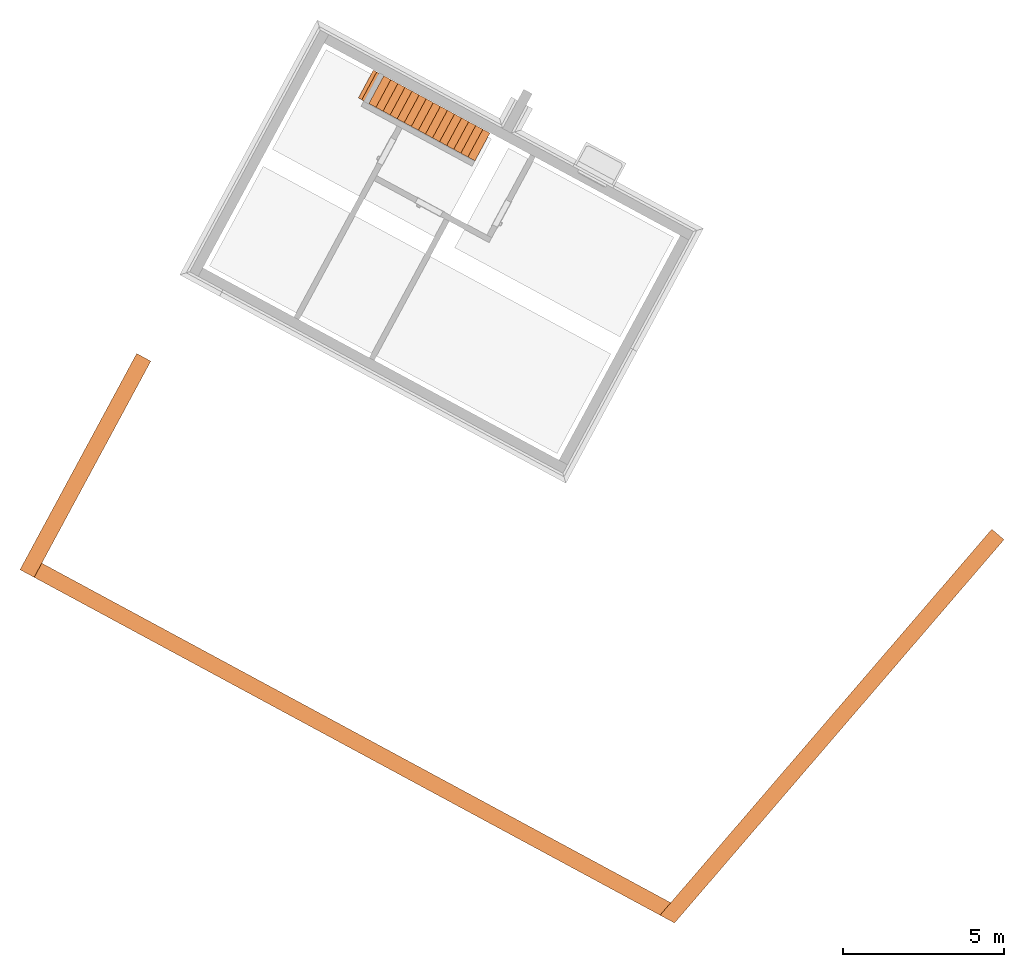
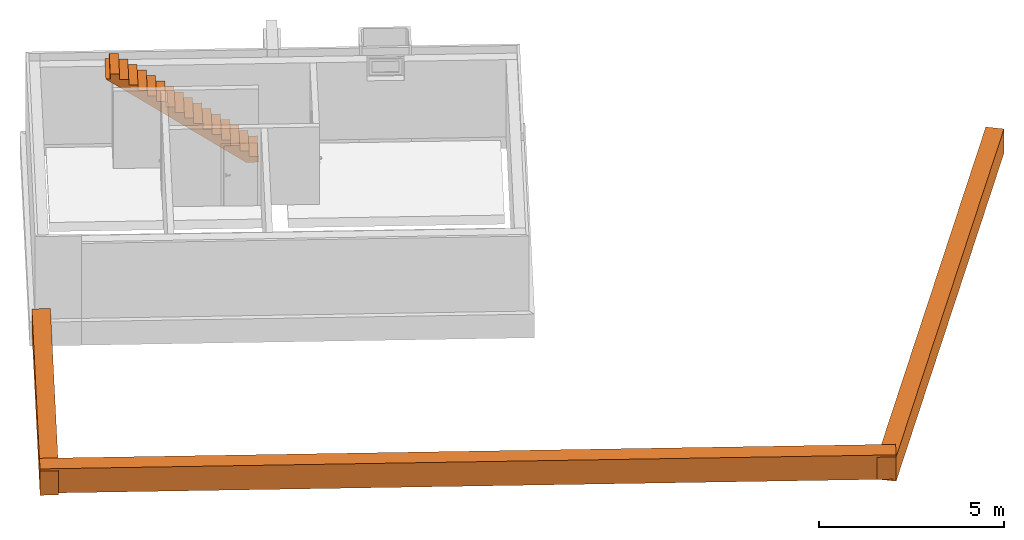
# One storey, part 7 of 7: 4 proxies.
"""IFC2X3 building model written with IfcOpenShell, lengths in metres."""

import ifcopenshell
import ifcopenshell.guid

model = None  # the IFC model being written
_history = None  # IfcOwnerHistory: only IFC2X3 demands one
_inside = {}  # id of a spatial element -> (the spatial element, [elements in it])
_under = {}  # id of a project, library or spatial element -> (it, [spatial elements below it])
_declared = {}  # id of a project -> (the project, [libraries it declares])
_typed = {}  # id of a type object -> (the type object, [elements of that type])
_made_of = {}  # id of a material, layer set ... -> (it, [elements and type objects made of it])


def new_model(schema):
    """Start an empty IFC model of exactly this schema.

    Asked for "IFC4X3", IfcOpenShell would pick the latest addendum, in which some entities
    have other attributes; the version numbers below select the first issue.
    IFC2X3 requires an IfcOwnerHistory on every rooted entity: one is made here for all.
    """
    global model, _history
    if schema == "IFC4X3":
        model = ifcopenshell.file(schema_version=(4, 3, 0, 0))
    else:
        model = ifcopenshell.file(schema=schema)
    _inside.clear()
    _under.clear()
    _declared.clear()
    _typed.clear()
    _made_of.clear()
    _history = None
    if model.schema == "IFC2X3":
        org = make("IfcOrganization", Name="unknown")
        user = make(
            "IfcPersonAndOrganization",
            ThePerson=make("IfcPerson", FamilyName="unknown"),
            TheOrganization=org,
        )
        app = make(
            "IfcApplication",
            ApplicationDeveloper=org,
            Version="unknown",
            ApplicationFullName="unknown",
            ApplicationIdentifier="unknown",
        )
        _history = make(
            "IfcOwnerHistory",
            OwningUser=user,
            OwningApplication=app,
            ChangeAction="ADDED",
            CreationDate=0,
        )
    return model


def make(cls, **values):
    """One entity of the class cls with the attributes given. An attribute that is None is left unset."""
    return model.create_entity(
        cls, **{name: value for name, value in values.items() if value is not None}
    )


def entity(cls, *values):
    """Any entity or typed value of the class cls, its attributes in the order of the schema. None: left unset."""
    e = model.create_entity(cls)
    for i, value in enumerate(values):
        if value is not None:
            e[i] = value
    return e


def rooted(cls, **values):
    """An entity with a GlobalId (a new one), such as an element, a storey or a relation."""
    return make(cls, GlobalId=ifcopenshell.guid.new(), OwnerHistory=_history, **values)


def si_unit(unit_type, name, prefix=None):
    """IfcSIUnit, for example si_unit("LENGTHUNIT", "METRE", prefix="MILLI")."""
    return make("IfcSIUnit", UnitType=unit_type, Prefix=prefix, Name=name)


def converted_unit(unit_type, name, factor, base, dimensions=None, offset=None):
    """IfcConversionBasedUnit, such as the inch: factor (a typed value) times the base unit."""
    return make(
        "IfcConversionBasedUnit"
        if offset is None
        else "IfcConversionBasedUnitWithOffset",
        ConversionOffset=offset,
        Dimensions=None
        if dimensions is None
        else entity("IfcDimensionalExponents", *dimensions),
        UnitType=unit_type,
        Name=name,
        ConversionFactor=make(
            "IfcMeasureWithUnit", ValueComponent=factor, UnitComponent=base
        ),
    )


def derived_unit(unit_type, elements):
    """IfcDerivedUnit: a product of units, each with its exponent."""
    return make(
        "IfcDerivedUnit",
        Elements=[
            make("IfcDerivedUnitElement", Unit=unit, Exponent=power)
            for unit, power in elements
        ],
        UnitType=unit_type,
    )


def money_unit(currency):
    """IfcMonetaryUnit."""
    return make("IfcMonetaryUnit", Currency=currency)


def assignment(units):
    """IfcUnitAssignment: the units of a project."""
    return None if units is None else make("IfcUnitAssignment", Units=units)


def point(xyz):
    """IfcCartesianPoint."""
    return None if xyz is None else make("IfcCartesianPoint", Coordinates=xyz)


def direction(xyz):
    """IfcDirection."""
    return None if xyz is None else make("IfcDirection", DirectionRatios=xyz)


def frame(location, z_axis=None, x_axis=None):
    """IfcAxis2Placement3D, a coordinate frame: its origin and axes. An axis left out is left unset."""
    return make(
        "IfcAxis2Placement3D",
        Location=point(location),
        Axis=direction(z_axis),
        RefDirection=direction(x_axis),
    )


def origin_with_axes():
    """The frame at (0, 0, 0) with the z axis (0, 0, 1) and the x axis (1, 0, 0) written out."""
    return frame((0.0, 0.0, 0.0), z_axis=(0.0, 0.0, 1.0), x_axis=(1.0, 0.0, 0.0))


def place(relative_to, where):
    """IfcLocalPlacement: puts the frame where relative to a parent placement (None: the world)."""
    return make(
        "IfcLocalPlacement", PlacementRelTo=relative_to, RelativePlacement=where
    )


def context(
    kind, dimensions, precision=None, world=None, true_north=None, identifier=None
):
    """IfcGeometricRepresentationContext, for example the 3D "Model" context."""
    return make(
        "IfcGeometricRepresentationContext",
        ContextIdentifier=identifier,
        ContextType=kind,
        CoordinateSpaceDimension=dimensions,
        Precision=precision,
        WorldCoordinateSystem=world,
        TrueNorth=true_north,
    )


def subcontext(parent, identifier, kind, view, scale=None):
    """IfcGeometricRepresentationSubContext, for example "Body" below "Model"."""
    return make(
        "IfcGeometricRepresentationSubContext",
        ContextIdentifier=identifier,
        ContextType=kind,
        ParentContext=parent,
        TargetScale=scale,
        TargetView=view,
    )


def project(units=None, contexts=None):
    """IfcProject with its units and contexts."""
    return rooted(
        "IfcProject",
        Name="project",
        RepresentationContexts=contexts,
        UnitsInContext=assignment(units),
    )


def spatial(cls, under=None, at=None, **own):
    """A site, building, storey or space (cls), placed at a placement, below another one or the project."""
    s = rooted(cls, ObjectPlacement=at, **own)
    if under is not None:
        _under.setdefault(under.id(), (under, []))[1].append(s)
    return s


def faces_of(points, faces, orient=None, outer=None):
    """IfcFace entities. A face is a list of loops; a loop is a list of indices into points, from 0.

    orient and outer hold one flag for each loop. By default every Orientation is true, the
    first loop of a face is its IfcFaceOuterBound and the others are IfcFaceBound.
    """
    made = []
    for i, loops in enumerate(faces):
        bounds = []
        for j, loop in enumerate(loops):
            is_outer = j == 0 if outer is None else outer[i][j]
            bounds.append(
                make(
                    "IfcFaceOuterBound" if is_outer else "IfcFaceBound",
                    Bound=make("IfcPolyLoop", Polygon=[points[k] for k in loop]),
                    Orientation=True if orient is None else orient[i][j],
                )
            )
        made.append(make("IfcFace", Bounds=bounds))
    return made


def faceted_brep(points, faces, orient=None, outer=None, voids=None):
    """IfcFacetedBrep: a solid bounded by flat faces; with voids (closed shells), ...WithVoids."""
    shared = [point(p) for p in points]
    hull = make("IfcClosedShell", CfsFaces=faces_of(shared, faces, orient, outer))
    if voids is None:
        return make("IfcFacetedBrep", Outer=hull)
    return make(
        "IfcFacetedBrepWithVoids",
        Outer=hull,
        Voids=[
            make(cls, CfsFaces=faces_of(shared, fs, o, b)) for cls, fs, o, b in voids
        ],
    )


def shape(context_of_items, identifier, shape_type, items):
    """IfcShapeRepresentation: the items that make up one representation, for example the "Body"."""
    return make(
        "IfcShapeRepresentation",
        ContextOfItems=context_of_items,
        RepresentationIdentifier=identifier,
        RepresentationType=shape_type,
        Items=items,
    )


def material(Name=None, Category=None):
    """IfcMaterial."""
    return make("IfcMaterial", Name=Name, Category=Category)


def made_of(thing, what):
    """Note that an element or type object is made of a material, layer set ...; save() writes the relation."""
    if what is not None:
        _made_of.setdefault(what.id(), (what, []))[1].append(thing)
    return thing


def type_object(cls, material=None, **own):
    """A type object (cls), such as IfcWallType, which elements share."""
    return made_of(rooted(cls, **own), material)


def element(
    cls,
    number,
    at=None,
    inside=None,
    cuts=None,
    type_object=None,
    material=None,
    context=None,
    identifier="Body",
    shape_type=None,
    held_by="IfcProductDefinitionShape",
    body=None,
    shapes=None,
    **own,
):
    """One element of the class cls, such as IfcWall. Its Tag is "e" and its number.

    at: its placement. inside: the storey or other place that contains it. cuts: it is an
    opening in that element (IfcRelVoidsElement). A single representation is given by context,
    identifier, shape_type and body (its items); several are given by shapes. held_by: the class
    of the entity that holds the representations. save() writes the other relations.
    """
    e = rooted(cls, Tag="e%d" % number, ObjectPlacement=at, **own)
    if body is not None:
        shapes = [shape(context, identifier, shape_type, body)]
    if shapes is not None:
        e.Representation = make(held_by, Representations=shapes)
    if inside is not None:
        _inside.setdefault(inside.id(), (inside, []))[1].append(e)
    if cuts is not None:
        rooted(
            "IfcRelVoidsElement", RelatingBuildingElement=cuts, RelatedOpeningElement=e
        )
    if type_object is not None:
        _typed.setdefault(type_object.id(), (type_object, []))[1].append(e)
    return made_of(e, material)


def aggregate(whole, parts):
    """IfcRelAggregates: a whole, such as a stair, and the parts it consists of."""
    return rooted("IfcRelAggregates", RelatingObject=whole, RelatedObjects=parts)


def save(model, path):
    """Write the relations noted so far, then the file.

    IfcRelAggregates (storeys below a building ...), IfcRelContainedInSpatialStructure (elements
    in a storey), IfcRelDefinesByType, IfcRelAssociatesMaterial and IfcRelDeclares: one each for
    every whole, place, type object, material and project.
    """
    for whole, parts in _under.values():
        aggregate(whole, parts)
    for where, things in _inside.values():
        rooted(
            "IfcRelContainedInSpatialStructure",
            RelatedElements=things,
            RelatingStructure=where,
        )
    for kind, things in _typed.values():
        rooted("IfcRelDefinesByType", RelatedObjects=things, RelatingType=kind)
    for what, things in _made_of.values():
        rooted("IfcRelAssociatesMaterial", RelatedObjects=things, RelatingMaterial=what)
    for by, libraries in _declared.values():
        rooted("IfcRelDeclares", RelatingContext=by, RelatedDefinitions=libraries)
    model.write(path)


model = new_model("IFC2X3")

# Units and contexts
model_context = context("Model", 3, precision=1e-05, world=origin_with_axes(), true_north=direction((0.0, 1.0)))
body_context = subcontext(model_context, "Body", "Model", "MODEL_VIEW")
ifc_project = project(units=[si_unit("LENGTHUNIT", "METRE"), si_unit("AREAUNIT", "SQUARE_METRE"), si_unit("VOLUMEUNIT", "CUBIC_METRE"), converted_unit("PLANEANGLEUNIT", "DEGREE", entity("IfcPlaneAngleMeasure", 0.0174532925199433), si_unit("PLANEANGLEUNIT", "RADIAN"), dimensions=[0, 0, 0, 0, 0, 0, 0]), money_unit("EUR"), converted_unit("TIMEUNIT", "Year", entity("IfcTimeMeasure", 31556926.0), si_unit("TIMEUNIT", "SECOND"), dimensions=[0, 0, 1, 0, 0, 0, 0]), si_unit("MASSUNIT", "GRAM", prefix="KILO"), si_unit("THERMODYNAMICTEMPERATUREUNIT", "DEGREE_CELSIUS"), si_unit("LUMINOUSINTENSITYUNIT", "LUMEN"), si_unit("ENERGYUNIT", "JOULE", prefix="MEGA"), derived_unit("THERMALCONDUCTANCEUNIT", [(si_unit("POWERUNIT", "WATT"), 1), (si_unit("LENGTHUNIT", "METRE"), -1), (si_unit("THERMODYNAMICTEMPERATUREUNIT", "KELVIN"), -1)]), derived_unit("SPECIFICHEATCAPACITYUNIT", [(si_unit("ENERGYUNIT", "JOULE"), 1), (si_unit("MASSUNIT", "GRAM", prefix="KILO"), -1), (si_unit("THERMODYNAMICTEMPERATUREUNIT", "KELVIN"), -1)]), derived_unit("MASSDENSITYUNIT", [(si_unit("MASSUNIT", "GRAM", prefix="KILO"), 1), (si_unit("VOLUMEUNIT", "CUBIC_METRE"), -1)])], contexts=[model_context])

# Site, building, storey
site_placement = place(None, frame((-3.949935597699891, 1.740105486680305, 0.0), z_axis=(0.0, 0.0, 1.0), x_axis=(0.8799804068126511, -0.475009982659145, 0.0)))
site = spatial("IfcSite", under=ifc_project, at=site_placement, Name="Gelände", CompositionType="ELEMENT")
building_placement = place(site_placement, origin_with_axes())
building = spatial("IfcBuilding", under=site, at=building_placement, Name="Gebäude", CompositionType="ELEMENT")
storey_placement = place(building_placement, frame((0.0, 0.0, -2.98), z_axis=(0.0, 0.0, 1.0), x_axis=(1.0, 0.0, 0.0)))
storey = spatial("IfcBuildingStorey", under=building, at=storey_placement, Name="Kellergeschoss", CompositionType="ELEMENT", Elevation=-2.98)

# Proxies
ifc_material_1 = material(Name="Beton, Stahlbeton C30/35")
building_element_proxy_type_1 = type_object("IfcBuildingElementProxyType", Name="Beton, Stahlbeton C30/35 500", PredefinedType="NOTDEFINED")
proxy_1_placement = place(storey_placement, frame((3.937485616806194, 7.638058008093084, 1.68), z_axis=(0.0, 0.0, 1.0), x_axis=(-5.644432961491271e-07, -0.9999999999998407, 0.0)))
element("IfcBuildingElementProxy", 1, at=proxy_1_placement, inside=storey, type_object=building_element_proxy_type_1, material=ifc_material_1, Name="A-Wand038", context=body_context, shape_type="Brep", body=[
    faceted_brep([(7.638058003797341, 0.0, 0.8), (7.6380580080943, 0.0, 0.07000000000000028), (7.6380580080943, 0.5000000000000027, 0.07000000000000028), (7.638057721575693, 0.5000000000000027, 0.8), (0.0, 0.0, 0.0), (7.6380580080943, 0.0, 0.0), (0.0, 0.0, 0.8000000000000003), (7.6380580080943, 0.5000000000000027, 0.0), (0.0, 0.5, 0.0), (0.0, 0.5, 0.8000000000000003)], [[[0, 1, 2, 3]], [[4, 5, 1, 0, 6]], [[5, 7, 2, 1]], [[3, 2, 7, 8, 9]], [[6, 0, 3, 9]], [[8, 7, 5, 4]], [[6, 9, 8, 4]]]),
])
proxy_2_placement = place(storey_placement, frame((27.06350757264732, 0.0, 1.68), z_axis=(0.0, 0.0, 1.0), x_axis=(0.2133784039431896, 0.9769696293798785, 0.0)))
element("IfcBuildingElementProxy", 2, at=proxy_2_placement, inside=storey, type_object=building_element_proxy_type_1, material=ifc_material_1, Name="A-Wand037", context=body_context, shape_type="Brep", body=[
    faceted_brep([(-0.1092042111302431, 0.5, 0.8000000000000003), (-0.1092042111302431, 0.5, 0.07000000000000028), (0.0, 0.0, 0.07000000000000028), (4.398254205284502e-09, 0.0, 0.8000000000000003), (0.0, 0.5, 0.0), (0.0, 0.5, 0.07000000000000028), (15.71624542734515, 0.5, 0.8000000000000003), (15.71624542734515, 0.5, 0.0), (0.0, 0.0, 0.0), (15.71624542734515, 0.0, 0.0), (15.71624542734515, 0.0, 0.8000000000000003)], [[[0, 1, 2, 3]], [[4, 5, 1, 0, 6, 7]], [[5, 2, 1]], [[3, 2, 8, 9, 10]], [[6, 0, 3, 10]], [[4, 8, 2, 5]], [[10, 9, 7, 6]], [[9, 8, 4, 7]]]),
])
ifc_material_2 = material(Name="ALLGEMEIN - BAUTEIL")
building_element_proxy_type_2 = type_object("IfcBuildingElementProxyType", Name="Treppentyp", PredefinedType="NOTDEFINED")
proxy_3_placement = place(storey_placement, frame((10.34740128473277, 17.90530078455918, 0.0), z_axis=(0.0, 0.0, 1.0), x_axis=(1.0, 0.0, 0.0)))
element("IfcBuildingElementProxy", 3, at=proxy_3_placement, inside=storey, type_object=building_element_proxy_type_2, material=ifc_material_2, Name="Treppe-001", context=body_context, shape_type="Brep", body=[
    faceted_brep([(-4.120001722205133, -1.918124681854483e-05, 2.82), (-3.99999999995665, -1.862256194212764e-05, 2.82), (-4.000004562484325, 0.9799813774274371, 2.82), (-4.120006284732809, 0.9799808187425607, 2.82), (-3.666666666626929, -1.70706817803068e-05, 2.482265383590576), (-3.5833333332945, -1.668271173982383e-05, 2.420182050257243), (-3.49999999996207, -1.629474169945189e-05, 2.35809871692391), (-3.416666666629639, -1.590677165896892e-05, 2.296015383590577), (-3.333333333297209, -1.551880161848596e-05, 2.233932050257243), (-3.249999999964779, -1.513083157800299e-05, 2.17184871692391), (-3.166666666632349, -1.474286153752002e-05, 2.109765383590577), (-3.083333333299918, -1.435489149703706e-05, 2.047682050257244), (-2.999999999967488, -1.396692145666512e-05, 1.98559871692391), (-2.916666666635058, -1.357895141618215e-05, 1.923515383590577), (-2.833333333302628, -1.319098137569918e-05, 1.861432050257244), (-2.749999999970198, -1.280301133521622e-05, 1.79934871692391), (-2.666666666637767, -1.241504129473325e-05, 1.737265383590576), (-2.583333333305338, -1.20270712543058e-05, 1.675182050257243), (-2.499999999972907, -1.163910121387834e-05, 1.61309871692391), (-2.416666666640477, -1.125113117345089e-05, 1.551015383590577), (-2.333333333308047, -1.086316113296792e-05, 1.488932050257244), (-2.249999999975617, -1.047519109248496e-05, 1.42684871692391), (-2.166666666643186, -1.008722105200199e-05, 1.364765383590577), (-2.083333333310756, -9.699251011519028e-06, 1.302682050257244), (-1.999999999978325, -9.311280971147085e-06, 1.24059871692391), (-1.916666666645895, -8.923310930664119e-06, 1.178515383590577), (-1.833333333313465, -8.535340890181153e-06, 1.116432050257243), (-1.749999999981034, -8.147370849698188e-06, 1.05434871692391), (-1.666666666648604, -7.759400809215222e-06, 0.9922653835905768), (-1.583333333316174, -7.371430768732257e-06, 0.9301820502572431), (-1.499999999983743, -6.983460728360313e-06, 0.8680987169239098), (-1.416666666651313, -6.595490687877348e-06, 0.8060153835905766), (-1.333333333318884, -6.207520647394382e-06, 0.7439320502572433), (-1.249999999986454, -5.819550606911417e-06, 0.6818487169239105), (-1.166666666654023, -5.431580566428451e-06, 0.6197653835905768), (-1.083333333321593, -5.043610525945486e-06, 0.5576820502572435), (-0.9999999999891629, -4.655640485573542e-06, 0.4955987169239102), (-0.9166666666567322, -4.267670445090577e-06, 0.4335153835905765), (-0.833333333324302, -3.879700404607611e-06, 0.3714320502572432), (-0.7499999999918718, -3.491730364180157e-06, 0.30934871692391), (-0.6666666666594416, -3.103760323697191e-06, 0.2472653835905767), (-0.5833333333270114, -2.715790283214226e-06, 0.185182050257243), (-0.4999999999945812, -2.327820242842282e-06, 0.1230987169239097), (-0.416666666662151, -1.939850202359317e-06, 0.06101538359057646), (-0.3347668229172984, -1.558553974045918e-06, 0.0), (0.0, 0.0, 0.0), (0.0, 0.0, 0.1862500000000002), (-0.2499999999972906, -1.163910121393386e-06, 0.1862500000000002), (-0.2499999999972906, -1.163910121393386e-06, 0.3725000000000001), (-0.4999999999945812, -2.327820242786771e-06, 0.3725000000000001), (-0.4999999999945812, -2.327820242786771e-06, 0.5587499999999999), (-0.7499999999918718, -3.491730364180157e-06, 0.5587499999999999), (-0.7499999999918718, -3.491730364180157e-06, 0.7450000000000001), (-0.9999999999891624, -4.655640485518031e-06, 0.7450000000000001), (-0.9999999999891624, -4.655640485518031e-06, 0.9312499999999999), (-1.249999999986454, -5.819550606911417e-06, 0.9312499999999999), (-1.249999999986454, -5.819550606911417e-06, 1.1175), (-1.499999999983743, -6.983460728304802e-06, 1.1175), (-1.499999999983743, -6.983460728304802e-06, 1.30375), (-1.749999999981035, -8.147370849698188e-06, 1.30375), (-1.749999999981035, -8.147370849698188e-06, 1.49), (-1.999999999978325, -9.311280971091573e-06, 1.49), (-1.999999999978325, -9.311280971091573e-06, 1.67625), (-2.249999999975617, -1.047519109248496e-05, 1.67625), (-2.249999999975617, -1.047519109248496e-05, 1.8625), (-2.499999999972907, -1.163910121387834e-05, 1.8625), (-2.499999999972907, -1.163910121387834e-05, 2.04875), (-2.749999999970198, -1.280301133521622e-05, 2.04875), (-2.749999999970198, -1.280301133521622e-05, 2.235), (-2.999999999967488, -1.39669214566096e-05, 2.235), (-2.999999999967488, -1.39669214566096e-05, 2.421250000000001), (-3.249999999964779, -1.513083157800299e-05, 2.421250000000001), (-3.249999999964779, -1.513083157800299e-05, 2.6075), (-3.49999999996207, -1.629474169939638e-05, 2.6075), (-3.49999999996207, -1.629474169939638e-05, 2.79375), (-3.749999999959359, -1.745865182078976e-05, 2.79375), (-3.749999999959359, -1.745865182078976e-05, 2.98), (-3.99999999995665, -1.862256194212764e-05, 2.98), (-3.749999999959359, -1.745865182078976e-05, 2.544348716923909), (-4.000004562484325, 0.9799813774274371, 2.98), (-3.666671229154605, 0.979982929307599, 2.482265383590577), (-3.750004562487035, 0.9799825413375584, 2.544348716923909), (-3.750004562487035, 0.9799825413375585, 2.98), (-3.750004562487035, 0.9799825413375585, 2.79375), (-3.500004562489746, 0.9799837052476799, 2.79375), (-3.500004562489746, 0.9799837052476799, 2.6075), (-3.250004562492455, 0.9799848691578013, 2.6075), (-3.250004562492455, 0.9799848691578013, 2.421250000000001), (-3.000004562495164, 0.9799860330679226, 2.421250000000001), (-3.000004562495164, 0.9799860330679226, 2.235), (-2.750004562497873, 0.979987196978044, 2.235), (-2.750004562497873, 0.979987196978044, 2.04875), (-2.500004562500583, 0.9799883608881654, 2.04875), (-2.500004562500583, 0.9799883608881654, 1.8625), (-2.250004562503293, 0.9799895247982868, 1.8625), (-2.250004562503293, 0.9799895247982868, 1.67625), (-2.000004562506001, 0.9799906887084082, 1.67625), (-2.000004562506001, 0.9799906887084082, 1.49), (-1.750004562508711, 0.9799918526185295, 1.49), (-1.750004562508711, 0.9799918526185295, 1.30375), (-1.500004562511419, 0.9799930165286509, 1.30375), (-1.500004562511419, 0.9799930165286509, 1.1175), (-1.25000456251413, 0.9799941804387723, 1.1175), (-1.25000456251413, 0.9799941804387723, 0.9312500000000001), (-1.000004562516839, 0.9799953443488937, 0.9312499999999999), (-1.000004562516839, 0.9799953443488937, 0.7450000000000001), (-0.7500045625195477, 0.9799965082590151, 0.7450000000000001), (-0.7500045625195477, 0.9799965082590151, 0.5587499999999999), (-0.5000045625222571, 0.9799976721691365, 0.5587499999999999), (-0.5000045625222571, 0.9799976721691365, 0.3725000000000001), (-0.2500045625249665, 0.9799988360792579, 0.3725000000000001), (-0.2500045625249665, 0.9799988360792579, 0.1862499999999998), (-4.562527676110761e-06, 0.9799999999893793, 0.1862500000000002), (-4.562527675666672e-06, 0.9799999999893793, 0.0), (-0.3347713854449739, 0.9799984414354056, 0.0), (-0.4166712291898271, 0.9799980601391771, 0.0610153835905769), (-0.5000045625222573, 0.9799976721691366, 0.1230987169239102), (-0.5833378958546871, 0.9799972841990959, 0.185182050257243), (-0.6666712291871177, 0.9799968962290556, 0.2472653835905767), (-0.7500045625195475, 0.979996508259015, 0.30934871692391), (-0.8333378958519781, 0.9799961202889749, 0.3714320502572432), (-0.9166712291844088, 0.9799957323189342, 0.433515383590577), (-1.000004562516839, 0.9799953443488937, 0.4955987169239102), (-1.083337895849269, 0.9799949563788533, 0.5576820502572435), (-1.166671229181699, 0.9799945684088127, 0.6197653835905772), (-1.25000456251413, 0.9799941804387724, 0.6818487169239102), (-1.333337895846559, 0.979993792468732, 0.7439320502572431), (-1.416671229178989, 0.9799934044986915, 0.8060153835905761), (-1.500004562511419, 0.9799930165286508, 0.8680987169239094), (-1.58333789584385, 0.9799926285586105, 0.9301820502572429), (-1.66667122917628, 0.9799922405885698, 0.9922653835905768), (-1.750004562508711, 0.9799918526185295, 1.054348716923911), (-1.833337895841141, 0.9799914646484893, 1.116432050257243), (-1.916671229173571, 0.979991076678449, 1.178515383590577), (-2.000004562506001, 0.9799906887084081, 1.24059871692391), (-2.083337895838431, 0.9799903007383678, 1.302682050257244), (-2.166671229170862, 0.9799899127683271, 1.364765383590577), (-2.250004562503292, 0.9799895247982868, 1.42684871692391), (-2.333337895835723, 0.9799891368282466, 1.488932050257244), (-2.416671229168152, 0.9799887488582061, 1.551015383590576), (-2.500004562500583, 0.9799883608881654, 1.61309871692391), (-2.583337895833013, 0.9799879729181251, 1.675182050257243), (-2.666671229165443, 0.9799875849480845, 1.737265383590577), (-2.750004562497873, 0.9799871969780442, 1.79934871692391), (-2.833337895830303, 0.9799868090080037, 1.861432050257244), (-2.916671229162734, 0.9799864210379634, 1.923515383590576), (-3.000004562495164, 0.9799860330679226, 1.98559871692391), (-3.083337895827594, 0.9799856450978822, 2.047682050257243), (-3.166671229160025, 0.9799852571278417, 2.109765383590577), (-3.250004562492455, 0.9799848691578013, 2.17184871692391), (-3.333337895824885, 0.979984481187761, 2.233932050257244), (-3.416671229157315, 0.9799840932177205, 2.296015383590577), (-3.500004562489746, 0.97998370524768, 2.358098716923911), (-3.583337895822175, 0.9799833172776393, 2.420182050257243)], [[[0, 1, 2, 3]], [[4, 5, 6, 7, 8, 9, 10, 11, 12, 13, 14, 15, 16, 17, 18, 19, 20, 21, 22, 23, 24, 25, 26, 27, 28, 29, 30, 31, 32, 33, 34, 35, 36, 37, 38, 39, 40, 41, 42, 43, 44, 45, 46, 47, 48, 49, 50, 51, 52, 53, 54, 55, 56, 57, 58, 59, 60, 61, 62, 63, 64, 65, 66, 67, 68, 69, 70, 71, 72, 73, 74, 75, 76, 77, 1, 0, 78]], [[1, 77, 79, 2]], [[80, 81, 3, 2, 79, 82, 83, 84, 85, 86, 87, 88, 89, 90, 91, 92, 93, 94, 95, 96, 97, 98, 99, 100, 101, 102, 103, 104, 105, 106, 107, 108, 109, 110, 111, 112, 113, 114, 115, 116, 117, 118, 119, 120, 121, 122, 123, 124, 125, 126, 127, 128, 129, 130, 131, 132, 133, 134, 135, 136, 137, 138, 139, 140, 141, 142, 143, 144, 145, 146, 147, 148, 149, 150, 151, 152, 153]], [[4, 78, 0, 3, 81, 80]], [[5, 4, 80, 153]], [[6, 5, 153, 152]], [[7, 6, 152, 151]], [[8, 7, 151, 150]], [[9, 8, 150, 149]], [[10, 9, 149, 148]], [[11, 10, 148, 147]], [[11, 147, 146, 12]], [[13, 12, 146, 145]], [[14, 13, 145, 144]], [[15, 14, 144, 143]], [[16, 15, 143, 142]], [[17, 16, 142, 141]], [[18, 17, 141, 140]], [[19, 18, 140, 139]], [[20, 19, 139, 138]], [[21, 20, 138, 137]], [[22, 21, 137, 136]], [[22, 136, 135, 23]], [[24, 23, 135, 134]], [[25, 24, 134, 133]], [[26, 25, 133, 132]], [[27, 26, 132, 131]], [[28, 27, 131, 130]], [[29, 28, 130, 129]], [[30, 29, 129, 128]], [[31, 30, 128, 127]], [[32, 31, 127, 126]], [[33, 32, 126, 125]], [[34, 33, 125, 124]], [[35, 34, 124, 123]], [[36, 35, 123, 122]], [[37, 36, 122, 121]], [[38, 37, 121, 120]], [[39, 38, 120, 119]], [[40, 39, 119, 118]], [[41, 40, 118, 117]], [[42, 41, 117, 116]], [[43, 42, 116, 115]], [[44, 43, 115, 114]], [[45, 44, 114, 113]], [[46, 45, 113, 112]], [[47, 46, 112, 111]], [[48, 47, 111, 110]], [[109, 49, 48, 110]], [[50, 49, 109, 108]], [[51, 50, 108, 107]], [[52, 51, 107, 106]], [[53, 52, 106, 105]], [[54, 53, 105, 104]], [[103, 55, 54, 104]], [[56, 55, 103, 102]], [[101, 57, 56, 102]], [[58, 57, 101, 100]], [[59, 58, 100, 99]], [[60, 59, 99, 98]], [[61, 60, 98, 97]], [[62, 61, 97, 96]], [[63, 62, 96, 95]], [[64, 63, 95, 94]], [[65, 64, 94, 93]], [[66, 65, 93, 92]], [[67, 66, 92, 91]], [[68, 67, 91, 90]], [[69, 68, 90, 89]], [[70, 69, 89, 88]], [[87, 71, 70, 88]], [[72, 71, 87, 86]], [[85, 73, 72, 86]], [[74, 73, 85, 84]], [[75, 74, 84, 83]], [[76, 75, 83, 82]], [[77, 76, 82, 79]]]),
])
ifc_material_3 = material(Name="MW Kalksandstein")
building_element_proxy_type_3 = type_object("IfcBuildingElementProxyType", Name="MW Kalksandstein 500", PredefinedType="NOTDEFINED")
proxy_4_placement = place(storey_placement, frame((3.937481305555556, 4.296959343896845e-09, 1.75), z_axis=(0.0, 0.0, 1.0), x_axis=(1.0, 0.0, 0.0)))
element("IfcBuildingElementProxy", 4, at=proxy_4_placement, inside=storey, type_object=building_element_proxy_type_3, material=ifc_material_3, Name="A-Wand036", context=body_context, shape_type="Brep", body=[
    faceted_brep([(0.5000002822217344, 0.4999999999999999, 0.0), (0.5000002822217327, 0.4999999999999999, 0.7299999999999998), (2.822216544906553e-07, 0.4999999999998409, 0.7299999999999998), (0.0, 0.4999999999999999, 0.8000000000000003), (23.12602626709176, 0.5000000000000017, 0.8000000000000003), (23.12602626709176, 0.5000000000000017, 0.73), (22.72344384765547, 0.5000000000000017, 0.73), (22.72344384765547, 0.4999999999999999, 0.0), (0.5000000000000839, 0.0, 0.7299999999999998), (0.4999999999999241, -2.86518607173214e-07, 0.0), (0.0, 0.0, 0.7299999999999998), (0.0, 0.0, 0.8000000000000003), (23.12602626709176, 0.0, 0.8000000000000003), (23.12602626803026, 0.0, 0.73), (22.61423963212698, 0.0, 0.73), (22.61423963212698, 0.0, 0.0)], [[[0, 1, 2, 3, 4, 5, 6, 7]], [[8, 1, 0, 9]], [[10, 2, 1, 8]], [[3, 2, 10, 11]], [[3, 11, 12, 4]], [[12, 13, 5, 4]], [[14, 6, 5, 13]], [[15, 7, 6, 14]], [[15, 9, 0, 7]], [[10, 8, 9, 15, 14, 13, 12, 11]]]),
])

save(model, "model.ifc")
